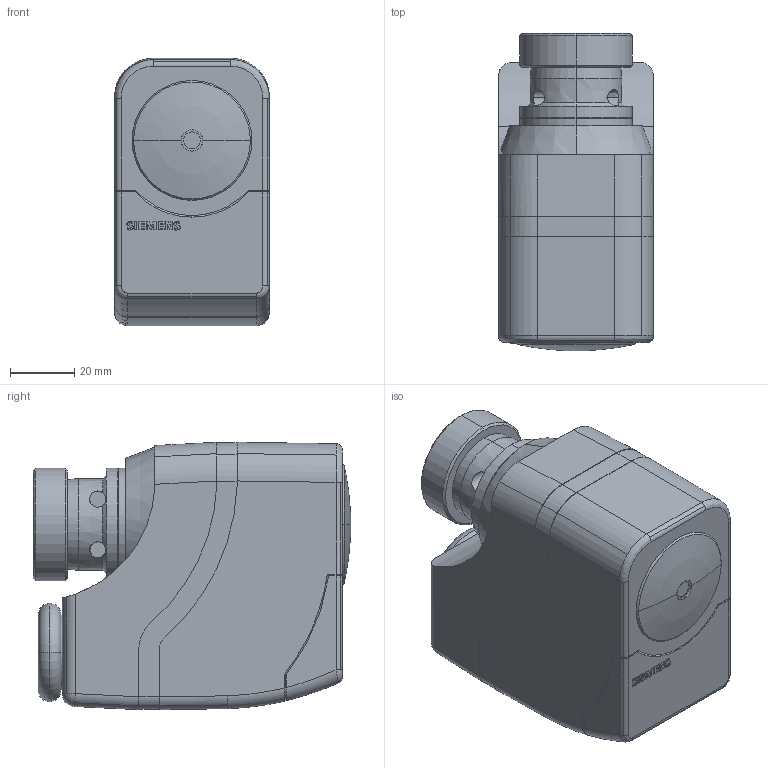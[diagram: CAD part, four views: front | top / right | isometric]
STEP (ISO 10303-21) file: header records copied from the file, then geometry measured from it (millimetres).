
FILE_DESCRIPTION((''),'2;1');
FILE_NAME('SSB31_1und81_1Hi.dwg.stp','2006-10-04T11:32:45',(''),(''),'Mechanical Desktop 2006','Mechanical Desktop 2006',', , ');
FILE_SCHEMA(('AUTOMOTIVE_DESIGN { 1 2 10303 214 0 1 1 1 }'));
Length unit declared in the file: millimetre
Products named in the file (1): Product
Bounding box: 48 x 98.5 x 83 mm (x, y, z)
Volume: 311497.6 mm3; surface area: 63383.9 mm2
Topology: 17 solids, 17 shells, 366 faces, 944 edges, 614 vertices
Faces by surface type: cylinder 193, plane 127, torus 16, bspline 14, cone 14, sphere 2
Entity records: 12579 total; most frequent: CARTESIAN_POINT 3365, DIRECTION 2006, ORIENTED_EDGE 1884, EDGE_CURVE 942, AXIS2_PLACEMENT_3D 769, VERTEX_POINT 614, VECTOR 468, LINE 468
